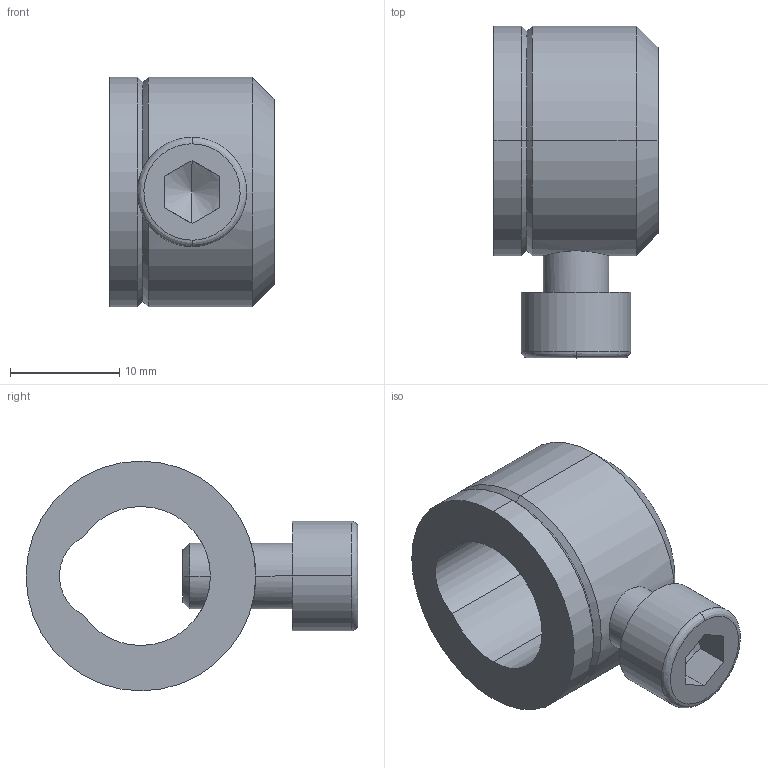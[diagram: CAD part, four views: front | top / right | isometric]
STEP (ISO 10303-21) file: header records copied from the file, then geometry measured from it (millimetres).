
FILE_DESCRIPTION (( 'STEP AP203' ), '1' );
FILE_NAME ('3PC-05.STEP', '2010-11-26T07:41:29', ( 'Darius' ), ( '' ), 'SwSTEP 2.0', 'SolidWorks 2003240', '' );
FILE_SCHEMA (( 'CONFIG_CONTROL_DESIGN' ));
Length unit declared in the file: millimetre
Products named in the file (1): 3PC-05
Bounding box: 15 x 30.34 x 21 mm (x, y, z)
Volume: 3616.7 mm3; surface area: 2414.5 mm2
Topology: 1 solids, 1 shells, 37 faces, 84 edges, 51 vertices
Faces by surface type: cylinder 14, plane 11, cone 10, bspline 2
Entity records: 1265 total; most frequent: CARTESIAN_POINT 367, DIRECTION 176, ORIENTED_EDGE 164, EDGE_CURVE 82, AXIS2_PLACEMENT_3D 70, VERTEX_POINT 51, EDGE_LOOP 43, FACE_OUTER_BOUND 37
